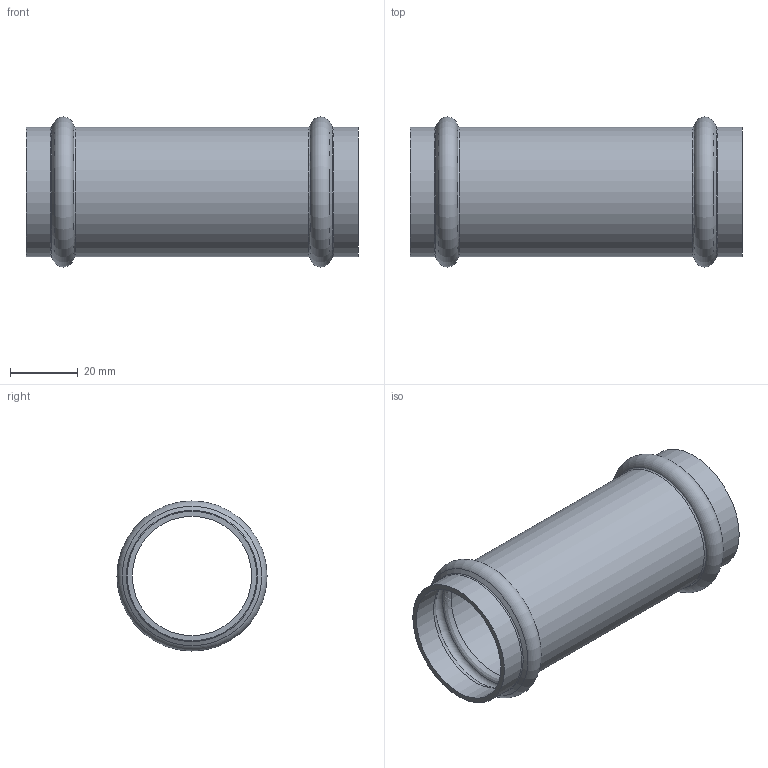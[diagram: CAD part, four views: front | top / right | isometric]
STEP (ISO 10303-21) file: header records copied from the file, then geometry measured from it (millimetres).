
FILE_DESCRIPTION((''),'2;1');
FILE_NAME('G:\Technics\CAD\Bauteile\035\69270S35(0).stp','2008-03-03T11:00:31',('herberg'),(''),'Autodesk Inventor 2008','Autodesk Inventor 2008','');
FILE_SCHEMA(('AUTOMOTIVE_DESIGN { 1 0 10303 214 1 1 1 1 }'));
Length unit declared in the file: millimetre
Products named in the file (1): 69270S35(0)
Bounding box: 98 x 44.3 x 44.3 mm (x, y, z)
Volume: 18289.1 mm3; surface area: 24729.3 mm2
Topology: 1 solids, 1 shells, 24 faces, 48 edges, 26 vertices
Faces by surface type: bspline 8, cylinder 6, torus 4, cone 4, plane 2
Full cylindrical faces by diameter (mm): 35.25 x3, 38.25 x3
Entity records: 834 total; most frequent: CARTESIAN_POINT 425, DIRECTION 82, ORIENTED_EDGE 48, EDGE_LOOP 48, AXIS2_PLACEMENT_3D 41, VERTEX_POINT 24, CIRCLE 24, EDGE_CURVE 24
